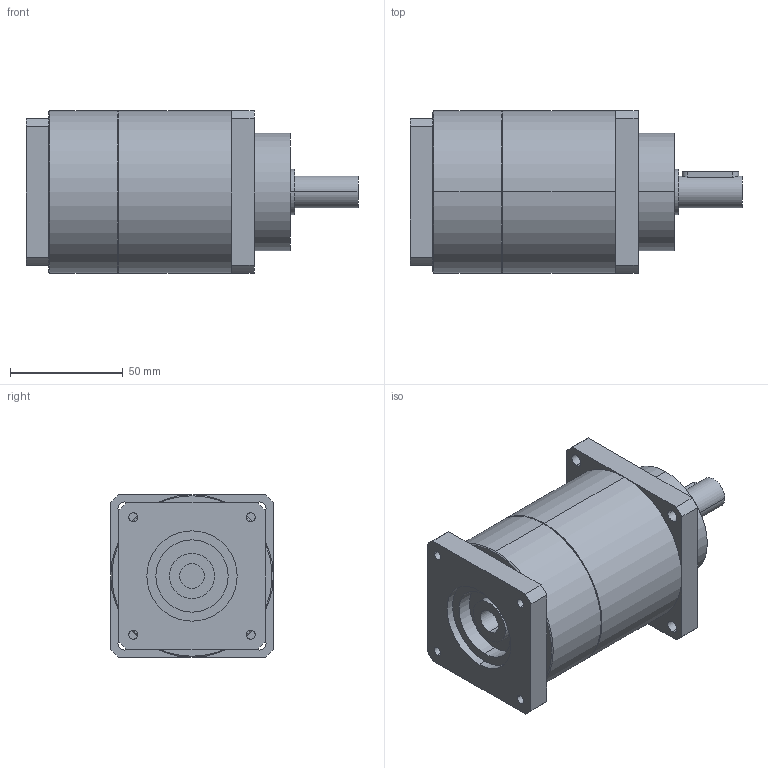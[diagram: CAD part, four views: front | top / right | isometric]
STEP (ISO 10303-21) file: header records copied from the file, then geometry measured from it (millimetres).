
FILE_DESCRIPTION(('CoCreate Modeling STEP Export'),'2;1');
FILE_NAME('GPT75_ig-9-12-16-20-25-28-35-40-50-70-100_14_B5T_11_P34.stp','2014-08-27T13:34:52',(''),(''),'CoCreate Modeling STEP processor for AP214 (Solid Model)','CoCreate Modeling 16.00C 25-Feb-2009 (C) Parametric Technology GmbH','');
FILE_SCHEMA(('AUTOMOTIVE_DESIGN { 1 0 10303 214 1 1 1 1 }'));
Length unit declared in the file: millimetre
Products named in the file (2): GPT75_ig-9-12-16-20-25-28-35-40-50-70-100_14_B5T_11_P34
Assembly tree (1 placements, depth 2):
  GPT75_ig-9-12-16-20-25-28-35-40-50-70-100_14_B5T_11_P34
    GPT75_ig-9-12-16-20-25-28-35-40-50-70-100_14_B5T_11_P34
Bounding box: 147 x 72 x 72 mm (x, y, z)
Volume: 449260.4 mm3; surface area: 42616.2 mm2
Topology: 1 solids, 1 shells, 88 faces, 226 edges, 145 vertices
Faces by surface type: cylinder 46, plane 38, cone 4
Entity records: 2676 total; most frequent: CARTESIAN_POINT 744, ORIENTED_EDGE 452, DIRECTION 334, EDGE_CURVE 226, VERTEX_POINT 145, AXIS2_PLACEMENT_3D 123, EDGE_LOOP 109, VECTOR 88
